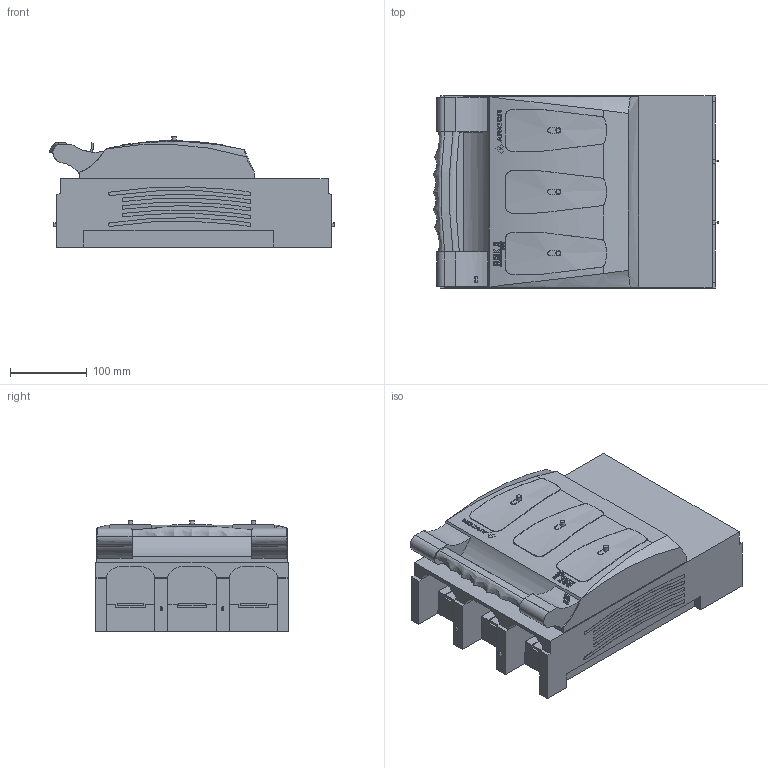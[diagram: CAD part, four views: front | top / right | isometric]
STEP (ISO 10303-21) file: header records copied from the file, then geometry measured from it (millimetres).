
FILE_DESCRIPTION(/* description */ (''),/* implementation_level */ '2;1');
FILE_NAME(/* name */ 'RBK 3 pro-M-2xVD - 63-811761-031.stp',/* time_stamp */ '2019-02-21T11:35:53+01:00',/* author */ (''),/* organization */ (''),/* preprocessor_version */ 'ST-DEVELOPER v16',/* originating_system */ 'SIEMENS PLM Software NX 10.0',/* authorisation */ '');
FILE_SCHEMA (('AUTOMOTIVE_DESIGN { 1 0 10303 214 3 1 1 1 }'));
Products named in the file (1): 710_13BC62B99lrj
Bounding box: 372 x 250 x 143.6 mm (x, y, z)
Volume: 7700458.6 mm3; surface area: 550557 mm2
Topology: 1 solids, 2 shells, 1617 faces, 4612 edges, 3049 vertices
Faces by surface type: extrusion 663, plane 622, cylinder 204, bspline 94, cone 18, sphere 16
Full cylindrical faces by diameter (mm): 11.105 x4, 13 x3
Entity records: 69052 total; most frequent: CARTESIAN_POINT 27675, ORIENTED_EDGE 9144, DIRECTION 6801, EDGE_CURVE 4572, VECTOR 3067, VERTEX_POINT 3052, LINE 2404, AXIS2_PLACEMENT_3D 1867
